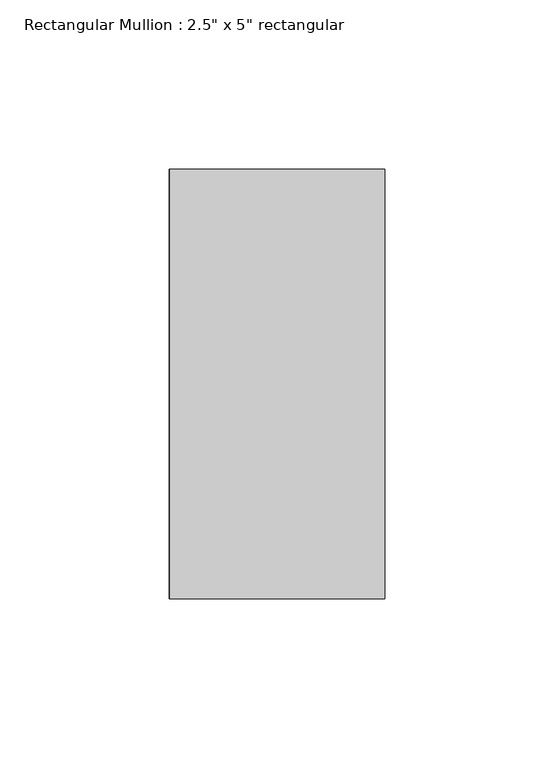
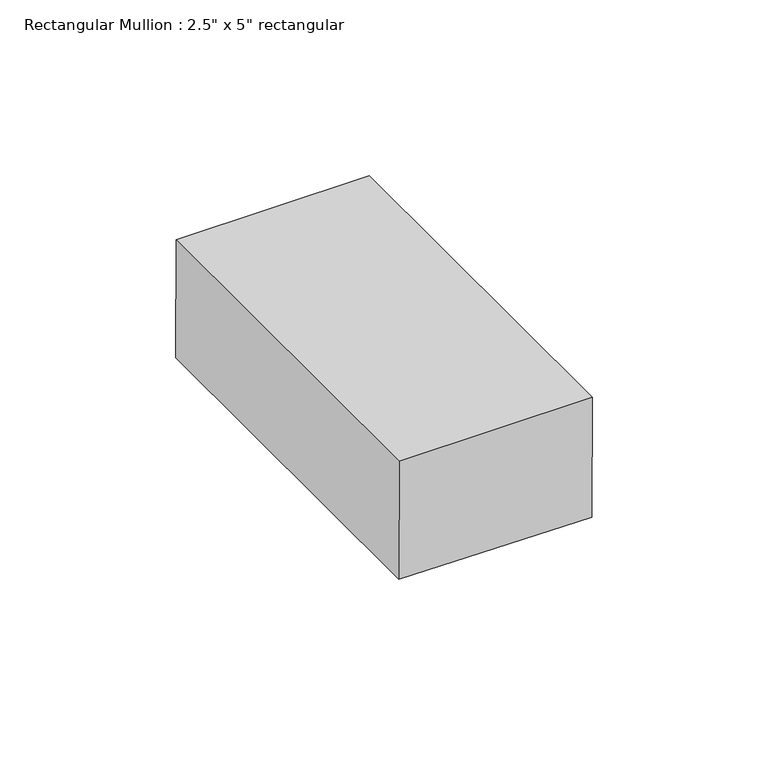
"""IFC4 building model written with IfcOpenShell, lengths in millimetres: member geometry."""

from ifc_helpers import new_model, si_unit, point, frame, frame_2d, origin, place, context, project, spatial, polyline, circle_curve, trimmed, segment, composite_curve, outline, extrude, source, transform, mapped, element, save


def member_5b1e3403(model_context):
    return source(origin(), model_context, "Body", "SweptSolid", [
        extrude(outline(composite_curve([segment(trimmed(circle_curve(frame_2d((0.0, -3962.4)), 3962.4), [point((-41.6487942, -0.2188913))], [point((0.0, 0.0))], False, "CARTESIAN"), True, "CONTINUOUS"), segment(polyline([(0.0, 0.0), (0.0, -63.5)]), True, "CONTINUOUS"), segment(trimmed(circle_curve(frame_2d((0.0, -3962.4)), 3898.9), [point((0.0, -63.5))], [point((-40.9813456, -63.7153835))], True, "CARTESIAN"), True, "CONTINUOUS"), segment(polyline([(-40.9813456, -63.7153835), (-41.6487942, -0.2188913)]), True, "CONTINUOUS")], self_intersect=False)), frame((0.0, -63.5, 0.0), z_axis=(0.0, 1.0, 0.0), x_axis=(0.0, 0.0, 1.0)), (0.0, 0.0, 1.0), 127.0),
    ])


if __name__ == "__main__":
    model = new_model("IFC4")
    model_context = context("Model", 3, world=origin())
    ifc_project = project(units=[si_unit("LENGTHUNIT", "METRE", prefix="MILLI")], contexts=[model_context])
    site = spatial("IfcSite", under=ifc_project)
    building = spatial("IfcBuilding", under=site)
    placement = place(None, origin())
    member_shape = member_5b1e3403(model_context)
    element("IfcMember", 1, ObjectType="Rectangular Mullion : 2.5\" x 5\" rectangular", at=placement, inside=building, context=model_context, shape_type="MappedRepresentation", body=[
        mapped(member_shape, transform((0.0, 0.0, 0.0), x_axis=(1.0, 0.0, 0.0), y_axis=(0.0, 1.0, 0.0), z_axis=(0.0, 0.0, 1.0))),
    ])
    save(model, "model.ifc")
